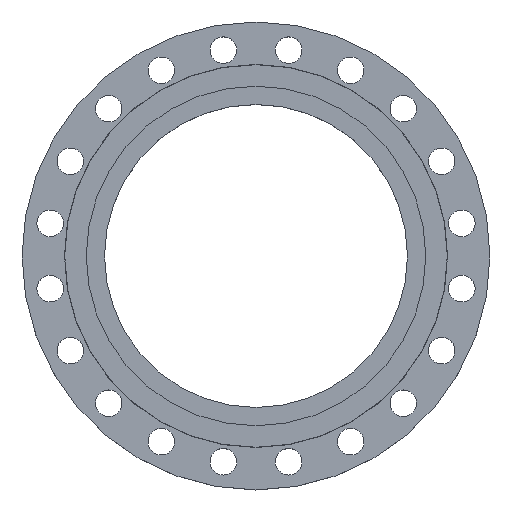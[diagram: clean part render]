
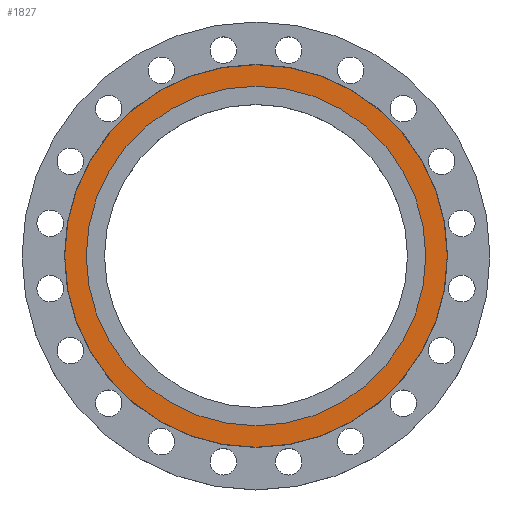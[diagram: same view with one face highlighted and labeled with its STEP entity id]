
A CAD part, top view. The second image highlights one B-rep face of the part: STEP entity #1827.
In plain terms, the highlighted planar face has unit normal (0, 0, 1).
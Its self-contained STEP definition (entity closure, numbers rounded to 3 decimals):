
#36 = DIRECTION ( 'NONE',  ( 1., 0., 0. ) ) ;
#37 = DIRECTION ( 'NONE',  ( 0., 0., 1. ) ) ;
#38 = CARTESIAN_POINT ( 'NONE',  ( 0., 0., 0. ) ) ;
#39 = PLANE ( 'NONE',  #1920 ) ;
#40 = FACE_BOUND ( 'NONE', #1595, .T. ) ;
#41 = FACE_OUTER_BOUND ( 'NONE', #1732, .T. ) ;
#85 = CARTESIAN_POINT ( 'NONE',  ( -248.5, 0., 0. ) ) ;
#118 = CARTESIAN_POINT ( 'NONE',  ( -280., 0., 0. ) ) ;
#163 = EDGE_CURVE ( 'NONE', #1684, #1784, #917, .T. ) ;
#173 = CARTESIAN_POINT ( 'NONE',  ( 248.5, 0., 0. ) ) ;
#275 = DIRECTION ( 'NONE',  ( -1., 0., 0. ) ) ;
#276 = DIRECTION ( 'NONE',  ( 0., 0., -1. ) ) ;
#277 = CARTESIAN_POINT ( 'NONE',  ( 0., 0., 0. ) ) ;
#295 = CARTESIAN_POINT ( 'NONE',  ( 280., 0., 0. ) ) ;
#530 = CIRCLE ( 'NONE', #537, 280. ) ;
#537 = AXIS2_PLACEMENT_3D ( 'NONE', #720, #719, #718 ) ;
#661 = EDGE_CURVE ( 'NONE', #1784, #1684, #1013, .T. ) ;
#718 = DIRECTION ( 'NONE',  ( -1., 0., 0. ) ) ;
#719 = DIRECTION ( 'NONE',  ( 0., 0., -1. ) ) ;
#720 = CARTESIAN_POINT ( 'NONE',  ( 0., 0., 0. ) ) ;
#844 = DIRECTION ( 'NONE',  ( -1., 0., 0. ) ) ;
#846 = DIRECTION ( 'NONE',  ( 0., 0., -1. ) ) ;
#847 = CARTESIAN_POINT ( 'NONE',  ( 0., 0., 0. ) ) ;
#917 = CIRCLE ( 'NONE', #1628, 248.5 ) ;
#1012 = EDGE_CURVE ( 'NONE', #1540, #1755, #530, .T. ) ;
#1013 = CIRCLE ( 'NONE', #1017, 248.5 ) ;
#1017 = AXIS2_PLACEMENT_3D ( 'NONE', #847, #846, #844 ) ;
#1097 = DIRECTION ( 'NONE',  ( -1., 0., 0. ) ) ;
#1099 = DIRECTION ( 'NONE',  ( 0., 0., -1. ) ) ;
#1100 = CARTESIAN_POINT ( 'NONE',  ( 0., 0., 0. ) ) ;
#1274 = ORIENTED_EDGE ( 'NONE', *, *, #163, .T. ) ;
#1275 = ORIENTED_EDGE ( 'NONE', *, *, #661, .T. ) ;
#1276 = ORIENTED_EDGE ( 'NONE', *, *, #1012, .F. ) ;
#1277 = ORIENTED_EDGE ( 'NONE', *, *, #1561, .F. ) ;
#1540 = VERTEX_POINT ( 'NONE', #295 ) ;
#1557 = AXIS2_PLACEMENT_3D ( 'NONE', #277, #276, #275 ) ;
#1558 = CIRCLE ( 'NONE', #1557, 280. ) ;
#1561 = EDGE_CURVE ( 'NONE', #1755, #1540, #1558, .T. ) ;
#1595 = EDGE_LOOP ( 'NONE', ( #1275, #1274 ) ) ;
#1628 = AXIS2_PLACEMENT_3D ( 'NONE', #1100, #1099, #1097 ) ;
#1684 = VERTEX_POINT ( 'NONE', #173 ) ;
#1732 = EDGE_LOOP ( 'NONE', ( #1277, #1276 ) ) ;
#1755 = VERTEX_POINT ( 'NONE', #118 ) ;
#1784 = VERTEX_POINT ( 'NONE', #85 ) ;
#1827 = ADVANCED_FACE ( 'NONE', ( #41, #40 ), #39, .T. ) ;
#1920 = AXIS2_PLACEMENT_3D ( 'NONE', #38, #37, #36 ) ;
